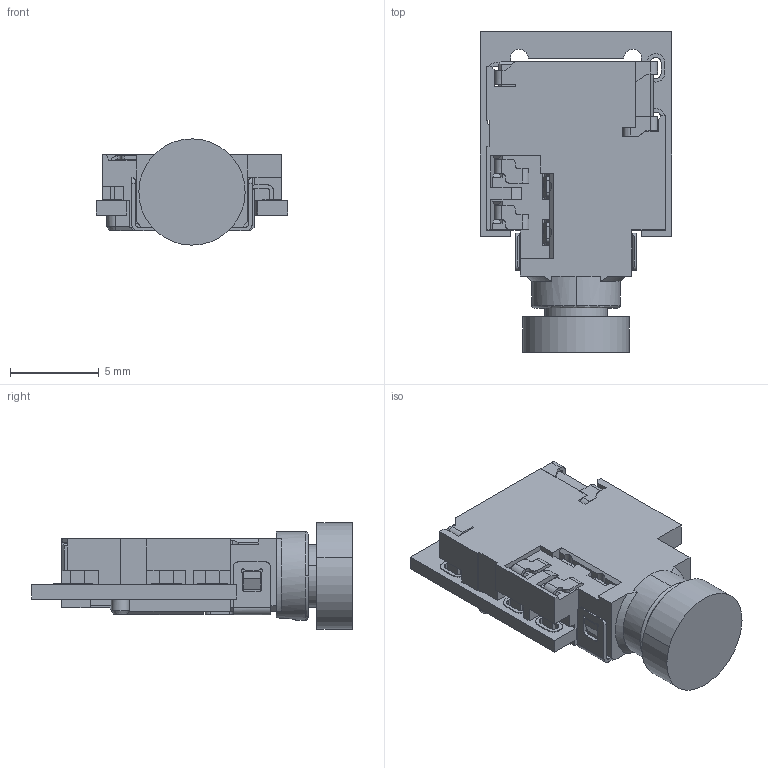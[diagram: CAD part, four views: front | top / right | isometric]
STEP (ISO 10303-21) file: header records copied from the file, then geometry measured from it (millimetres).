
FILE_DESCRIPTION (( 'STEP AP214' ), '1' );
FILE_NAME ('淏0.50(J3B-3蜊耀)-3D源偶.STEP', '2022-04-19T07:22:36', ( '' ), ( '' ), 'SwSTEP 2.0', 'SolidWorks 2016', '' );
FILE_SCHEMA (( 'AUTOMOTIVE_DESIGN' ));
Length unit declared in the file: millimetre
Products named in the file (4): 35_PLUG; PCB; 淏0.50; 淏0.50(J3B-3蜊耀)-3D源偶
Assembly tree (3 placements, depth 2):
  淏0.50(J3B-3蜊耀)-3D源偶
    淏0.50
    35_PLUG
    PCB
Bounding box: 10.8 x 18.1 x 6 mm (x, y, z)
Volume: 506.8 mm3; surface area: 1239.7 mm2
Topology: 3 solids, 5 shells, 807 faces, 2322 edges, 1519 vertices
Faces by surface type: plane 461, cylinder 260, bspline 58, cone 23, sphere 3, torus 2
Entity records: 30328 total; most frequent: CARTESIAN_POINT 9708, ORIENTED_EDGE 4620, DIRECTION 3516, EDGE_CURVE 2310, VECTOR 1522, LINE 1522, VERTEX_POINT 1516, AXIS2_PLACEMENT_3D 997
